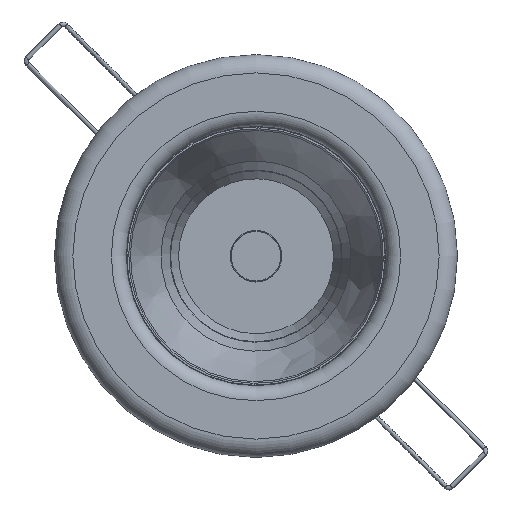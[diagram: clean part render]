
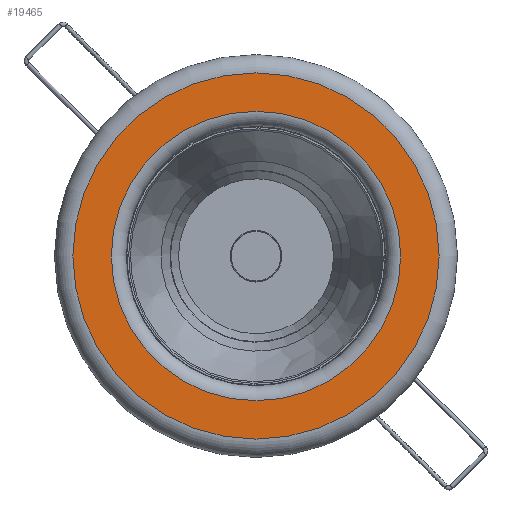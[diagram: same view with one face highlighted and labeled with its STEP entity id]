
A CAD part, top view. The second image highlights one B-rep face of the part: STEP entity #19465.
In plain terms, the highlighted planar face has unit normal (0, 0, 1).
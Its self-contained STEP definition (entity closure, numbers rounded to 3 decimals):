
#77=FACE_BOUND('',#2862,.T.);
#1792=FACE_OUTER_BOUND('',#2861,.T.);
#2861=EDGE_LOOP('',(#17318));
#2862=EDGE_LOOP('',(#17319));
#6454=CIRCLE('',#21528,39.5);
#6456=CIRCLE('',#21531,50.);
#8938=VERTEX_POINT('',#65174);
#8939=VERTEX_POINT('',#65178);
#11777=EDGE_CURVE('',#8938,#8938,#6454,.T.);
#11779=EDGE_CURVE('',#8939,#8939,#6456,.T.);
#17318=ORIENTED_EDGE('',*,*,#11779,.F.);
#17319=ORIENTED_EDGE('',*,*,#11777,.T.);
#18520=PLANE('',#21530);
#19465=ADVANCED_FACE('',(#1792,#77),#18520,.T.);
#21528=AXIS2_PLACEMENT_3D('',#65175,#26449,#26450);
#21530=AXIS2_PLACEMENT_3D('',#65177,#26453,#26454);
#21531=AXIS2_PLACEMENT_3D('',#65179,#26455,#26456);
#26449=DIRECTION('center_axis',(0.,0.,-1.));
#26450=DIRECTION('ref_axis',(1.,0.,0.));
#26453=DIRECTION('center_axis',(0.,0.,1.));
#26454=DIRECTION('ref_axis',(0.,-1.,0.));
#26455=DIRECTION('center_axis',(0.,0.,-1.));
#26456=DIRECTION('ref_axis',(1.,0.,0.));
#65174=CARTESIAN_POINT('',(400.,-39.5,52.6));
#65175=CARTESIAN_POINT('Origin',(400.,0.,52.6));
#65177=CARTESIAN_POINT('Origin',(450.,0.,52.6));
#65178=CARTESIAN_POINT('',(400.,-50.,52.6));
#65179=CARTESIAN_POINT('Origin',(400.,0.,52.6));
